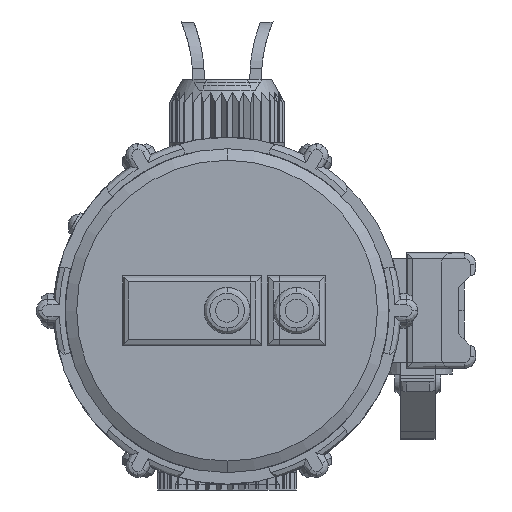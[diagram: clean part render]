
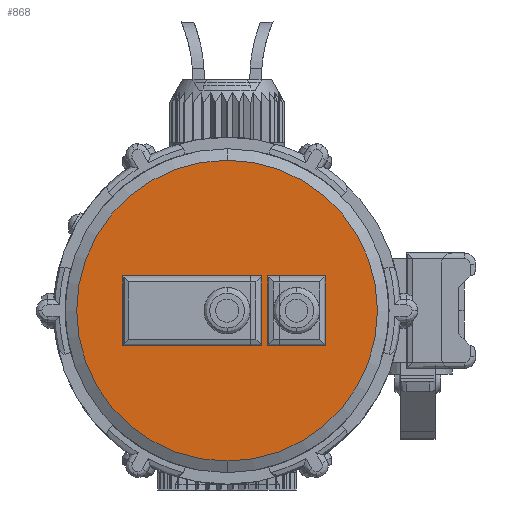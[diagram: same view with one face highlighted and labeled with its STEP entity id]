
A CAD part, front view. The second image highlights one B-rep face of the part: STEP entity #868.
In plain terms, the highlighted planar face has unit normal (0, -1, 0).
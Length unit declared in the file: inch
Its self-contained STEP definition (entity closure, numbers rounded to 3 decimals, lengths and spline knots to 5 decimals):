
#610 = VERTEX_POINT ( 'NONE', #28992 ) ;
#817 = CARTESIAN_POINT ( 'NONE',  ( 0.28125, 0., -0.1875 ) ) ;
#836 = ORIENTED_EDGE ( 'NONE', *, *, #28991, .F. ) ;
#868 = ADVANCED_FACE ( 'NONE', ( #3154, #29049, #25675 ), #17869, .F. ) ;
#1608 = CARTESIAN_POINT ( 'NONE',  ( 0.125, 0., -0.96875 ) ) ;
#2115 = VECTOR ( 'NONE', #9306, 39.37008 ) ;
#2167 = CARTESIAN_POINT ( 'NONE',  ( -0.5625, 0., -0.1875 ) ) ;
#2860 = ORIENTED_EDGE ( 'NONE', *, *, #13150, .T. ) ;
#3154 = FACE_OUTER_BOUND ( 'NONE', #7721, .T. ) ;
#3834 = VECTOR ( 'NONE', #18276, 39.37008 ) ;
#4190 = CARTESIAN_POINT ( 'NONE',  ( 0.53125, 0., -0.1875 ) ) ;
#4671 = DIRECTION ( 'NONE',  ( 0., 0., 1. ) ) ;
#5252 = VECTOR ( 'NONE', #39330, 39.37008 ) ;
#5359 = VECTOR ( 'NONE', #36354, 39.37008 ) ;
#5512 = VERTEX_POINT ( 'NONE', #817 ) ;
#5627 = CARTESIAN_POINT ( 'NONE',  ( -0.5625, 0., 0.1875 ) ) ;
#5738 = CARTESIAN_POINT ( 'NONE',  ( -0.5625, 0., -0.1875 ) ) ;
#6067 = ORIENTED_EDGE ( 'NONE', *, *, #9754, .F. ) ;
#6189 = LINE ( 'NONE', #17357, #3834 ) ;
#7231 = VECTOR ( 'NONE', #4671, 39.37008 ) ;
#7721 = EDGE_LOOP ( 'NONE', ( #2860, #15466 ) ) ;
#8216 = AXIS2_PLACEMENT_3D ( 'NONE', #9323, #27681, #18729 ) ;
#8729 = DIRECTION ( 'NONE',  ( 0., 0., 1. ) ) ;
#9165 = CARTESIAN_POINT ( 'NONE',  ( 0.53125, 0., -0.1875 ) ) ;
#9306 = DIRECTION ( 'NONE',  ( 0., 0., 1. ) ) ;
#9323 = CARTESIAN_POINT ( 'NONE',  ( 0., 0., 0. ) ) ;
#9578 = ORIENTED_EDGE ( 'NONE', *, *, #12392, .F. ) ;
#9754 = EDGE_CURVE ( 'NONE', #36892, #12941, #15586, .T. ) ;
#10232 = LINE ( 'NONE', #9165, #2115 ) ;
#11614 = AXIS2_PLACEMENT_3D ( 'NONE', #27118, #33410, #8729 ) ;
#12392 = EDGE_CURVE ( 'NONE', #15394, #610, #15447, .T. ) ;
#12591 = VERTEX_POINT ( 'NONE', #21577 ) ;
#12919 = CARTESIAN_POINT ( 'NONE',  ( 0., 0., 0.8125 ) ) ;
#12941 = VERTEX_POINT ( 'NONE', #35794 ) ;
#12964 = EDGE_CURVE ( 'NONE', #14171, #12591, #23537, .T. ) ;
#13150 = EDGE_CURVE ( 'NONE', #32336, #25777, #14420, .T. ) ;
#14171 = VERTEX_POINT ( 'NONE', #20745 ) ;
#14355 = CARTESIAN_POINT ( 'NONE',  ( 0.53125, 0., 0.1875 ) ) ;
#14420 = CIRCLE ( 'NONE', #8216, 0.8125 ) ;
#15076 = VERTEX_POINT ( 'NONE', #4190 ) ;
#15096 = ORIENTED_EDGE ( 'NONE', *, *, #29927, .F. ) ;
#15167 = CARTESIAN_POINT ( 'NONE',  ( 0., 0., 0. ) ) ;
#15394 = VERTEX_POINT ( 'NONE', #33376 ) ;
#15447 = LINE ( 'NONE', #5627, #5359 ) ;
#15466 = ORIENTED_EDGE ( 'NONE', *, *, #35515, .T. ) ;
#15586 = LINE ( 'NONE', #28145, #23192 ) ;
#15645 = ORIENTED_EDGE ( 'NONE', *, *, #21056, .T. ) ;
#15859 = DIRECTION ( 'NONE',  ( 1., 0., 0. ) ) ;
#15954 = EDGE_CURVE ( 'NONE', #15076, #14171, #10232, .T. ) ;
#16559 = ORIENTED_EDGE ( 'NONE', *, *, #12964, .F. ) ;
#17194 = EDGE_LOOP ( 'NONE', ( #38081, #15645, #16559, #33393 ) ) ;
#17357 = CARTESIAN_POINT ( 'NONE',  ( 0.28125, 0., -0.96875 ) ) ;
#17869 = PLANE ( 'NONE',  #37524 ) ;
#18009 = CIRCLE ( 'NONE', #11614, 0.8125 ) ;
#18276 = DIRECTION ( 'NONE',  ( 0., 0., 1. ) ) ;
#18383 = CARTESIAN_POINT ( 'NONE',  ( 0.53125, 0., -0.1875 ) ) ;
#18729 = DIRECTION ( 'NONE',  ( 0., 0., 1. ) ) ;
#19577 = VECTOR ( 'NONE', #39599, 39.37008 ) ;
#20745 = CARTESIAN_POINT ( 'NONE',  ( 0.53125, 0., 0.1875 ) ) ;
#21056 = EDGE_CURVE ( 'NONE', #5512, #12591, #6189, .T. ) ;
#21577 = CARTESIAN_POINT ( 'NONE',  ( 0.28125, 0., 0.1875 ) ) ;
#22154 = EDGE_LOOP ( 'NONE', ( #836, #6067, #15096, #9578 ) ) ;
#22215 = EDGE_CURVE ( 'NONE', #5512, #15076, #32560, .T. ) ;
#23192 = VECTOR ( 'NONE', #15859, 39.37008 ) ;
#23537 = LINE ( 'NONE', #14355, #26906 ) ;
#25369 = LINE ( 'NONE', #5738, #5252 ) ;
#25675 = FACE_BOUND ( 'NONE', #17194, .T. ) ;
#25777 = VERTEX_POINT ( 'NONE', #35106 ) ;
#26906 = VECTOR ( 'NONE', #30378, 39.37008 ) ;
#27099 = DIRECTION ( 'NONE',  ( 0., 0., 1. ) ) ;
#27118 = CARTESIAN_POINT ( 'NONE',  ( 0., 0., 0. ) ) ;
#27681 = DIRECTION ( 'NONE',  ( 0., -1., 0. ) ) ;
#28145 = CARTESIAN_POINT ( 'NONE',  ( -0.5625, 0., -0.1875 ) ) ;
#28991 = EDGE_CURVE ( 'NONE', #12941, #15394, #31711, .T. ) ;
#28992 = CARTESIAN_POINT ( 'NONE',  ( -0.5625, 0., 0.1875 ) ) ;
#29049 = FACE_BOUND ( 'NONE', #22154, .T. ) ;
#29927 = EDGE_CURVE ( 'NONE', #610, #36892, #25369, .T. ) ;
#30378 = DIRECTION ( 'NONE',  ( -1., 0., 0. ) ) ;
#31711 = LINE ( 'NONE', #1608, #7231 ) ;
#32336 = VERTEX_POINT ( 'NONE', #12919 ) ;
#32560 = LINE ( 'NONE', #18383, #19577 ) ;
#33376 = CARTESIAN_POINT ( 'NONE',  ( 0.125, 0., 0.1875 ) ) ;
#33393 = ORIENTED_EDGE ( 'NONE', *, *, #15954, .F. ) ;
#33410 = DIRECTION ( 'NONE',  ( 0., -1., 0. ) ) ;
#35106 = CARTESIAN_POINT ( 'NONE',  ( 0., 0., -0.8125 ) ) ;
#35515 = EDGE_CURVE ( 'NONE', #25777, #32336, #18009, .T. ) ;
#35794 = CARTESIAN_POINT ( 'NONE',  ( 0.125, 0., -0.1875 ) ) ;
#36354 = DIRECTION ( 'NONE',  ( -1., 0., 0. ) ) ;
#36892 = VERTEX_POINT ( 'NONE', #2167 ) ;
#37524 = AXIS2_PLACEMENT_3D ( 'NONE', #15167, #39338, #27099 ) ;
#38081 = ORIENTED_EDGE ( 'NONE', *, *, #22215, .F. ) ;
#39330 = DIRECTION ( 'NONE',  ( 0., 0., -1. ) ) ;
#39338 = DIRECTION ( 'NONE',  ( 0., 1., 0. ) ) ;
#39599 = DIRECTION ( 'NONE',  ( 1., 0., 0. ) ) ;
